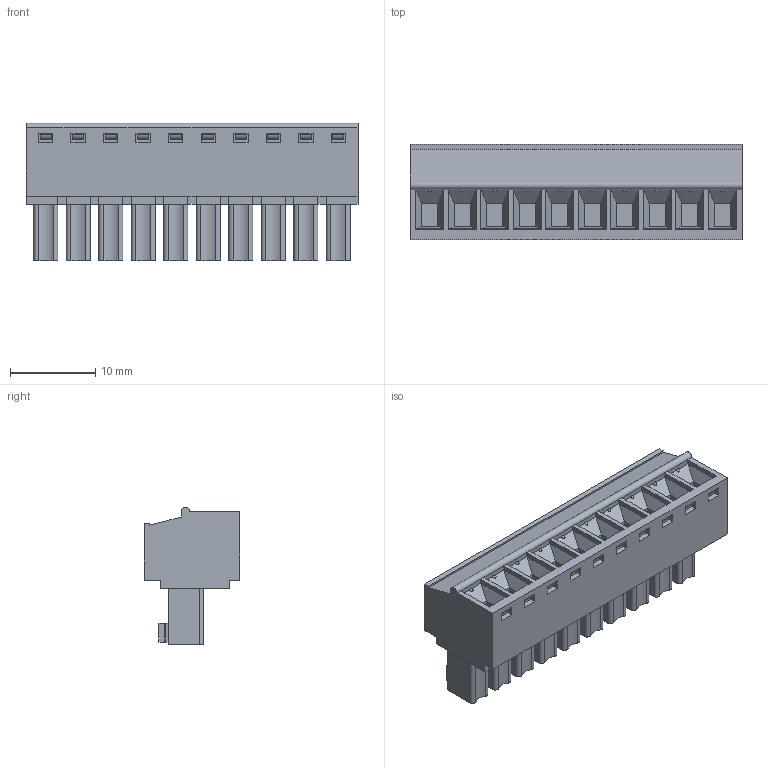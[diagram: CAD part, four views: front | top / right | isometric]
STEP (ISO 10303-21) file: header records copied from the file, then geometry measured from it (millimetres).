
FILE_DESCRIPTION(('FreeCAD Model'),'2;1');
FILE_NAME('Open CASCADE Shape Model','2023-05-24T15:37:09',('Author'),( ''),'Open CASCADE STEP processor 7.6','FreeCAD','Unknown');
FILE_SCHEMA(('AUTOMOTIVE_DESIGN { 1 0 10303 214 1 1 1 1 }'));
Products named in the file (1): BR7F2-10
Bounding box: 38.89 x 11.2 x 16.1 mm (x, y, z)
Volume: 3863.8 mm3; surface area: 3702.4 mm2
Topology: 1 solids, 1 shells, 893 faces, 2165 edges, 1344 vertices
Faces by surface type: plane 532, cylinder 201, cone 100, torus 40, sphere 20
Entity records: 58181 total; most frequent: CARTESIAN_POINT 14249, DIRECTION 8421, LINE 5098, VECTOR 5098, ORIENTED_EDGE 4290, PCURVE 4290, DEFINITIONAL_REPRESENTATION 4290, EDGE_CURVE 2145
